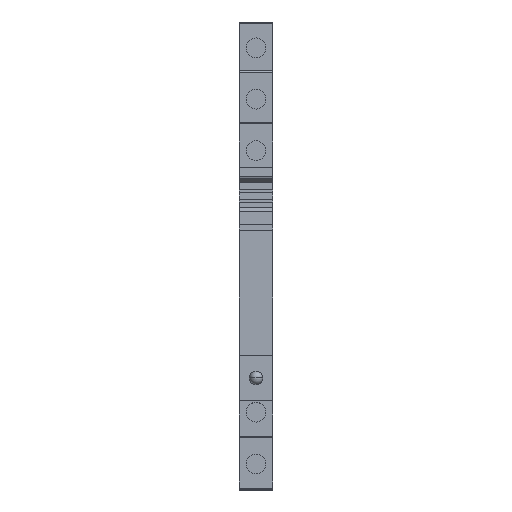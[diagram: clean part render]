
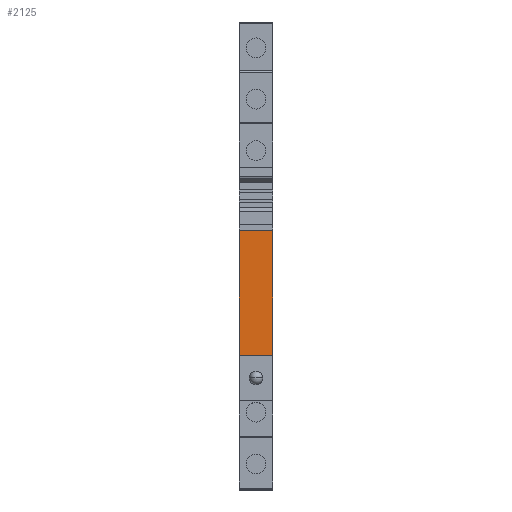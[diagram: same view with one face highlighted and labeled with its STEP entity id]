
A CAD part, top view. The second image highlights one B-rep face of the part: STEP entity #2125.
In plain terms, the highlighted planar face has unit normal (0, 0, 1).
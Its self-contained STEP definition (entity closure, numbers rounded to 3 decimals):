
#197 = CARTESIAN_POINT ( 'NONE',  ( 0., 50.642, 69.857 ) ) ;
#256 = CARTESIAN_POINT ( 'NONE',  ( 0., 50.642, 69.857 ) ) ;
#316 = PLANE ( 'NONE',  #4506 ) ;
#342 = DIRECTION ( 'NONE',  ( 1., 0., 0. ) ) ;
#788 = EDGE_LOOP ( 'NONE', ( #4578, #1441, #5260, #1394 ) ) ;
#790 = EDGE_CURVE ( 'E966', #5433, #879, #1826, .T. ) ;
#820 = EDGE_CURVE ( 'E982', #2634, #879, #2745, .T. ) ;
#824 = DIRECTION ( 'NONE',  ( 0., -1., 0. ) ) ;
#879 = VERTEX_POINT ( 'NONE', #5189 ) ;
#922 = VECTOR ( 'NONE', #824, 1000. ) ;
#1036 = VECTOR ( 'NONE', #3793, 1000. ) ;
#1394 = ORIENTED_EDGE ( 'NONE', *, *, #790, .T. ) ;
#1440 = LINE ( 'NONE', #4658, #4011 ) ;
#1441 = ORIENTED_EDGE ( 'NONE', *, *, #1494, .F. ) ;
#1494 = EDGE_CURVE ( 'E987', #5933, #2634, #1440, .T. ) ;
#1666 = EDGE_CURVE ( 'E992', #5933, #5433, #5614, .T. ) ;
#1734 = CARTESIAN_POINT ( 'NONE',  ( 0., 25.142, 69.857 ) ) ;
#1826 = LINE ( 'NONE', #1734, #2664 ) ;
#2125 = ADVANCED_FACE ( 'E981', ( #4377 ), #316, .T. ) ;
#2634 = VERTEX_POINT ( 'NONE', #5288 ) ;
#2664 = VECTOR ( 'NONE', #3576, 1000. ) ;
#2745 = LINE ( 'NONE', #4951, #922 ) ;
#3426 = CARTESIAN_POINT ( 'NONE',  ( 0., 50.642, 69.857 ) ) ;
#3576 = DIRECTION ( 'NONE',  ( 1., 0., 0. ) ) ;
#3793 = DIRECTION ( 'NONE',  ( 0., -1., 0. ) ) ;
#4011 = VECTOR ( 'NONE', #4082, 1000. ) ;
#4082 = DIRECTION ( 'NONE',  ( 1., 0., 0. ) ) ;
#4285 = CARTESIAN_POINT ( 'NONE',  ( 0., 25.142, 69.857 ) ) ;
#4377 = FACE_OUTER_BOUND ( 'NONE', #788, .T. ) ;
#4506 = AXIS2_PLACEMENT_3D ( 'NONE', #256, #4848, #342 ) ;
#4578 = ORIENTED_EDGE ( 'NONE', *, *, #820, .F. ) ;
#4658 = CARTESIAN_POINT ( 'NONE',  ( 0., 50.642, 69.857 ) ) ;
#4848 = DIRECTION ( 'NONE',  ( 0., 0., 1. ) ) ;
#4951 = CARTESIAN_POINT ( 'NONE',  ( 6.2, 50.642, 69.857 ) ) ;
#5189 = CARTESIAN_POINT ( 'NONE',  ( 6.2, 25.142, 69.857 ) ) ;
#5260 = ORIENTED_EDGE ( 'NONE', *, *, #1666, .T. ) ;
#5288 = CARTESIAN_POINT ( 'NONE',  ( 6.2, 50.642, 69.857 ) ) ;
#5433 = VERTEX_POINT ( 'NONE', #4285 ) ;
#5614 = LINE ( 'NONE', #3426, #1036 ) ;
#5933 = VERTEX_POINT ( 'NONE', #197 ) ;
